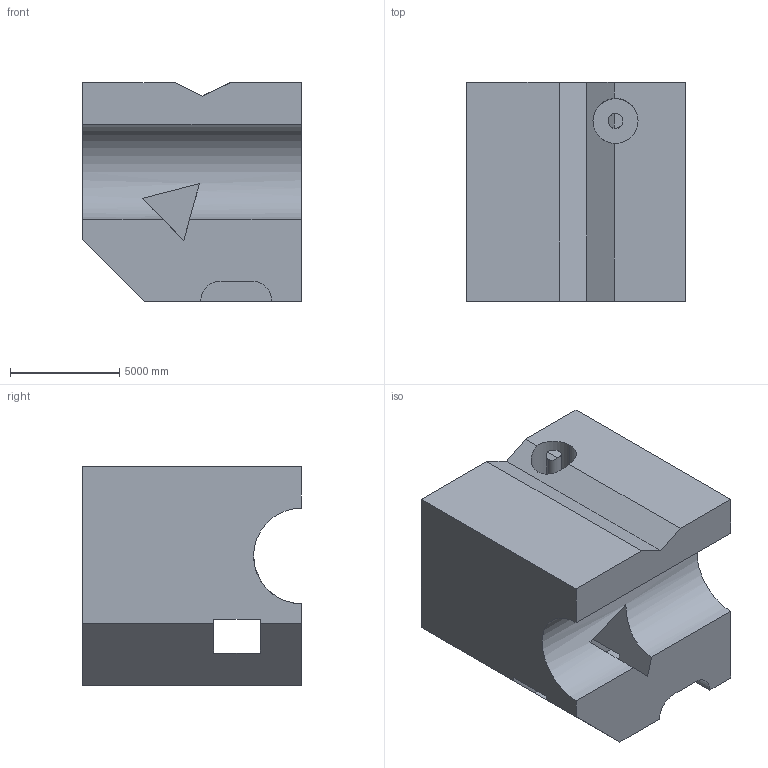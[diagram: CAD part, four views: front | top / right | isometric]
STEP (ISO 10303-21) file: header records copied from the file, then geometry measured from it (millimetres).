
FILE_DESCRIPTION (( 'STEP AP203' ), '1' );
FILE_NAME ('332.STEP', '2022-09-07T15:17:51', ( 'user' ), ( '' ), 'SwSTEP 2.0', 'SolidWorks 2021', '' );
FILE_SCHEMA (( 'CONFIG_CONTROL_DESIGN' ));
Length unit declared in the file: centimetre
Products named in the file (1): 332
Bounding box: 10000 x 10000 x 10000 mm (x, y, z)
Volume: 780595687529.4 mm3; surface area: 768444923.7 mm2
Topology: 1 solids, 1 shells, 32 faces, 96 edges, 64 vertices
Faces by surface type: plane 25, cylinder 7
Entity records: 1159 total; most frequent: CARTESIAN_POINT 214, ORIENTED_EDGE 192, DIRECTION 169, EDGE_CURVE 96, VECTOR 75, LINE 75, VERTEX_POINT 64, AXIS2_PLACEMENT_3D 47
